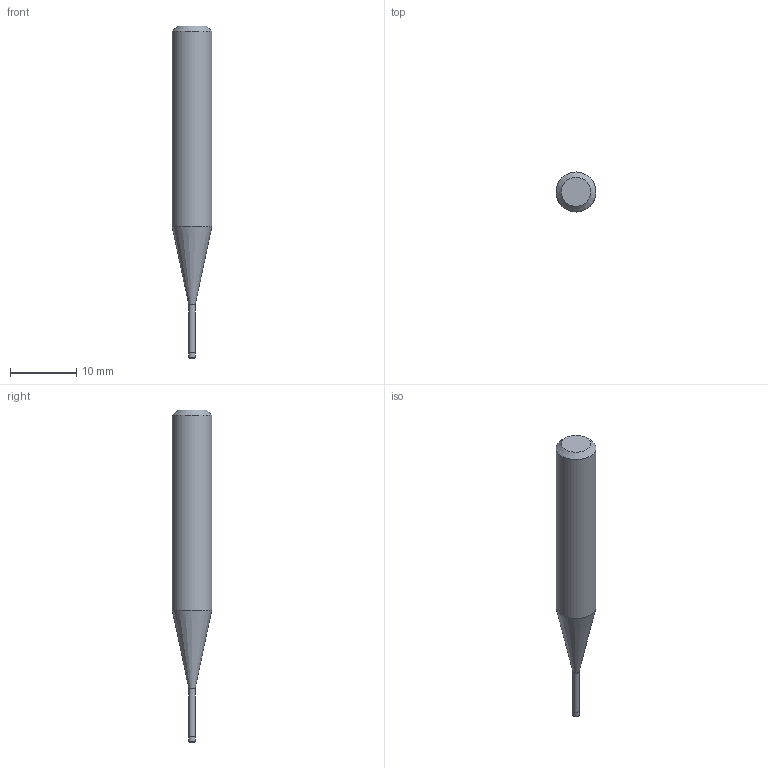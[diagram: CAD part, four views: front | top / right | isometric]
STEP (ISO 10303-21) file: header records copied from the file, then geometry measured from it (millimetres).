
FILE_DESCRIPTION((''),'2;1');
FILE_NAME('C:\Users\nsx150\AppData\Local\Temp\Mastercam 2021\17T8Q8S9EB\TEMP.step','2021-04-21T14:33:05',(''),(''),'STEP Write','Mastercam 2021 ... CNC Software, Inc.','');
FILE_SCHEMA(('AUTOMOTIVE_DESIGN'));
Length unit declared in the file: millimetre
Products named in the file (1): None
Bounding box: 6 x 6 x 50 mm (x, y, z)
Volume: 984.4 mm3; surface area: 745.2 mm2
Topology: 2 solids, 2 shells, 10 faces, 14 edges, 8 vertices
Faces by surface type: plane 4, cylinder 3, cone 2, torus 1
Full cylindrical faces by diameter (mm): 0.95 x1, 1 x1, 6 x1
Entity records: 232 total; most frequent: DIRECTION 40, CARTESIAN_POINT 28, AXIS2_PLACEMENT_3D 20, ORIENTED_EDGE 16, EDGE_LOOP 16, STYLED_ITEM 13, ADVANCED_FACE 10, FACE_BOUND 10
